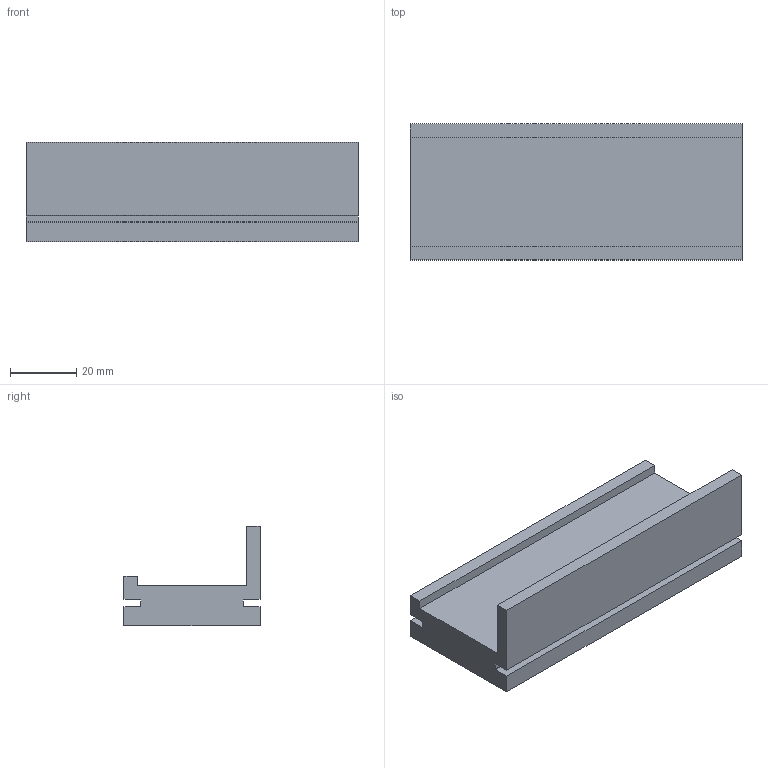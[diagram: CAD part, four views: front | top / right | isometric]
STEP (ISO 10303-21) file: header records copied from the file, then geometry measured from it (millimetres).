
FILE_DESCRIPTION (( 'STEP AP203' ), '1' );
FILE_NAME ('084.514.010.STEP', '2013-01-29T12:30:12', ( 'Alusic' ), ( 'Alusic' ), 'SwSTEP 2.0', 'SolidWorks 2011', '' );
FILE_SCHEMA (( 'CONFIG_CONTROL_DESIGN' ));
Length unit declared in the file: millimetre
Products named in the file (1): 084.514.010
Bounding box: 100 x 41 x 30 mm (x, y, z)
Volume: 56145.9 mm3; surface area: 17843.6 mm2
Topology: 1 solids, 1 shells, 22 faces, 60 edges, 40 vertices
Faces by surface type: plane 18, cylinder 4
Entity records: 769 total; most frequent: CARTESIAN_POINT 123, ORIENTED_EDGE 120, DIRECTION 114, EDGE_CURVE 60, VECTOR 52, LINE 52, VERTEX_POINT 40, AXIS2_PLACEMENT_3D 31
